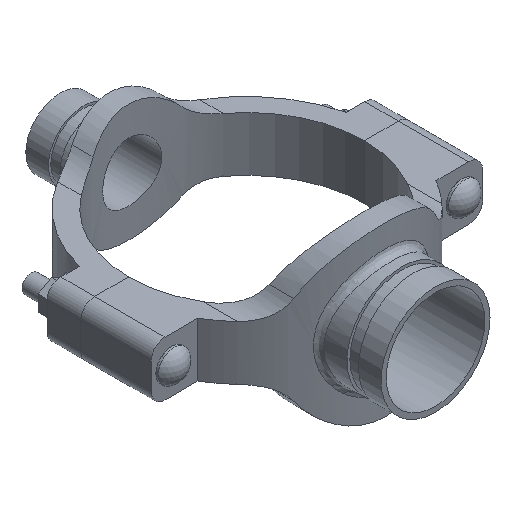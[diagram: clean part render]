
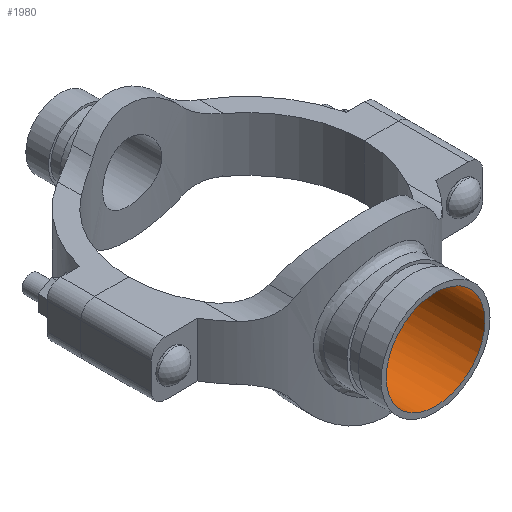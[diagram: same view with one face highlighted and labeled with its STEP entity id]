
A CAD part, isometric view. The second image highlights one B-rep face of the part: STEP entity #1980.
In plain terms, the highlighted cylindrical face has radius 34.493 mm (diameter 68.986 mm), a full revolution.
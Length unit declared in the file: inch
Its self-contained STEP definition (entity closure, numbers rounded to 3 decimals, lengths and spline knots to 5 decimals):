
#50=B_SPLINE_CURVE_WITH_KNOTS('',3,(#4000,#4001,#4002,#4003,#4004,#4005,
#4006,#4007,#4008,#4009,#4010,#4011,#4012,#4013,#4014,#4015,#4016,#4017,
#4018,#4019,#4020,#4021,#4022,#4023,#4024,#4025,#4026,#4027,#4028,#4029,
#4030,#4031,#4032,#4033,#4034,#4035,#4036,#4037,#4038,#4039,#4040,#4041,
#4042,#4043,#4044,#4045,#4046,#4047,#4048,#4049,#4050,#4051,#4052,#4053,
#4054,#4055,#4056,#4057,#4058,#4059,#4060,#4061,#4062,#4063,#4064,#4065),
 .UNSPECIFIED.,.T.,.F.,(4,2,2,2,2,2,2,2,2,2,2,2,2,2,2,2,2,2,2,2,2,2,2,2,
2,2,2,2,2,2,2,2,4),(0.,0.65894,1.31787,1.97681,
2.63574,3.29387,3.952,4.61013,5.26826,
5.92639,6.58452,7.24265,7.90078,8.55972,
9.21865,9.87759,10.53652,11.19546,11.8544,
12.51333,13.17227,13.8304,14.48853,15.14666,
15.80479,16.46292,17.12105,17.77918,18.4373,
19.09624,19.75518,20.41411,21.07305),
 .UNSPECIFIED.);
#95=CYLINDRICAL_SURFACE('',#2217,1.358);
#212=FACE_OUTER_BOUND('',#334,.T.);
#334=EDGE_LOOP('',(#1592,#1593,#1594,#1595));
#484=LINE('',#3999,#632);
#632=VECTOR('',#2682,1.358);
#734=CIRCLE('',#2218,1.358);
#899=VERTEX_POINT('',#3996);
#900=VERTEX_POINT('',#3998);
#1144=EDGE_CURVE('',#899,#899,#734,.T.);
#1145=EDGE_CURVE('',#899,#900,#484,.T.);
#1146=EDGE_CURVE('',#900,#900,#50,.T.);
#1592=ORIENTED_EDGE('',*,*,#1144,.F.);
#1593=ORIENTED_EDGE('',*,*,#1145,.T.);
#1594=ORIENTED_EDGE('',*,*,#1146,.F.);
#1595=ORIENTED_EDGE('',*,*,#1145,.F.);
#1980=ADVANCED_FACE('',(#212),#95,.F.);
#2217=AXIS2_PLACEMENT_3D('',#3995,#2678,#2679);
#2218=AXIS2_PLACEMENT_3D('',#3997,#2680,#2681);
#2678=DIRECTION('center_axis',(0.,-1.,0.));
#2679=DIRECTION('ref_axis',(-1.,0.,0.));
#2680=DIRECTION('center_axis',(0.,-1.,0.));
#2681=DIRECTION('ref_axis',(-1.,0.,0.));
#2682=DIRECTION('',(0.,-1.,0.));
#3995=CARTESIAN_POINT('Origin',(0.,5.21,0.));
#3996=CARTESIAN_POINT('',(1.358,5.21,0.));
#3997=CARTESIAN_POINT('Origin',(0.,5.21,0.));
#3998=CARTESIAN_POINT('',(1.358,2.95268,0.));
#3999=CARTESIAN_POINT('',(1.358,5.21,0.));
#4000=CARTESIAN_POINT('Ctrl Pts',(1.358,2.95268,0.));
#4001=CARTESIAN_POINT('Ctrl Pts',(1.358,2.95268,-0.08647));
#4002=CARTESIAN_POINT('Ctrl Pts',(1.34961,2.95659,-0.1755));
#4003=CARTESIAN_POINT('Ctrl Pts',(1.3147,2.97227,-0.35185));
#4004=CARTESIAN_POINT('Ctrl Pts',(1.2882,2.98403,-0.43917));
#4005=CARTESIAN_POINT('Ctrl Pts',(1.21861,3.01312,-0.60607));
#4006=CARTESIAN_POINT('Ctrl Pts',(1.17547,3.03044,-0.6858));
#4007=CARTESIAN_POINT('Ctrl Pts',(1.07616,3.06711,-0.83302));
#4008=CARTESIAN_POINT('Ctrl Pts',(1.01999,3.08643,-0.90052));
#4009=CARTESIAN_POINT('Ctrl Pts',(0.90059,3.12335,-1.01991));
#4010=CARTESIAN_POINT('Ctrl Pts',(0.83313,3.14231,-1.07608));
#4011=CARTESIAN_POINT('Ctrl Pts',(0.68589,3.1777,-1.17542));
#4012=CARTESIAN_POINT('Ctrl Pts',(0.60611,3.1941,-1.2186));
#4013=CARTESIAN_POINT('Ctrl Pts',(0.4391,3.22131,-1.28823));
#4014=CARTESIAN_POINT('Ctrl Pts',(0.35172,3.23212,-1.31474));
#4015=CARTESIAN_POINT('Ctrl Pts',(0.17536,3.24647,-1.34963));
#4016=CARTESIAN_POINT('Ctrl Pts',(0.08637,3.25,-1.358));
#4017=CARTESIAN_POINT('Ctrl Pts',(-0.08637,3.25,-1.358));
#4018=CARTESIAN_POINT('Ctrl Pts',(-0.17536,3.24647,-1.34963));
#4019=CARTESIAN_POINT('Ctrl Pts',(-0.35172,3.23212,-1.31474));
#4020=CARTESIAN_POINT('Ctrl Pts',(-0.4391,3.22131,-1.28823));
#4021=CARTESIAN_POINT('Ctrl Pts',(-0.60611,3.1941,-1.2186));
#4022=CARTESIAN_POINT('Ctrl Pts',(-0.68589,3.1777,-1.17542));
#4023=CARTESIAN_POINT('Ctrl Pts',(-0.83313,3.14231,-1.07608));
#4024=CARTESIAN_POINT('Ctrl Pts',(-0.90059,3.12335,-1.01991));
#4025=CARTESIAN_POINT('Ctrl Pts',(-1.01999,3.08643,-0.90052));
#4026=CARTESIAN_POINT('Ctrl Pts',(-1.07616,3.06711,-0.83302));
#4027=CARTESIAN_POINT('Ctrl Pts',(-1.17547,3.03044,-0.6858));
#4028=CARTESIAN_POINT('Ctrl Pts',(-1.21861,3.01312,-0.60607));
#4029=CARTESIAN_POINT('Ctrl Pts',(-1.2882,2.98403,-0.43917));
#4030=CARTESIAN_POINT('Ctrl Pts',(-1.3147,2.97227,-0.35185));
#4031=CARTESIAN_POINT('Ctrl Pts',(-1.34961,2.95659,-0.1755));
#4032=CARTESIAN_POINT('Ctrl Pts',(-1.358,2.95268,-0.08647));
#4033=CARTESIAN_POINT('Ctrl Pts',(-1.358,2.95268,0.08647));
#4034=CARTESIAN_POINT('Ctrl Pts',(-1.34961,2.95659,0.1755));
#4035=CARTESIAN_POINT('Ctrl Pts',(-1.3147,2.97227,0.35185));
#4036=CARTESIAN_POINT('Ctrl Pts',(-1.2882,2.98403,0.43917));
#4037=CARTESIAN_POINT('Ctrl Pts',(-1.21861,3.01312,0.60607));
#4038=CARTESIAN_POINT('Ctrl Pts',(-1.17547,3.03044,0.6858));
#4039=CARTESIAN_POINT('Ctrl Pts',(-1.07616,3.06711,0.83302));
#4040=CARTESIAN_POINT('Ctrl Pts',(-1.01999,3.08643,0.90052));
#4041=CARTESIAN_POINT('Ctrl Pts',(-0.90059,3.12335,1.01991));
#4042=CARTESIAN_POINT('Ctrl Pts',(-0.83313,3.14231,1.07608));
#4043=CARTESIAN_POINT('Ctrl Pts',(-0.68589,3.1777,1.17542));
#4044=CARTESIAN_POINT('Ctrl Pts',(-0.60611,3.1941,1.2186));
#4045=CARTESIAN_POINT('Ctrl Pts',(-0.4391,3.22131,1.28823));
#4046=CARTESIAN_POINT('Ctrl Pts',(-0.35172,3.23212,1.31474));
#4047=CARTESIAN_POINT('Ctrl Pts',(-0.17536,3.24647,1.34963));
#4048=CARTESIAN_POINT('Ctrl Pts',(-0.08637,3.25,1.358));
#4049=CARTESIAN_POINT('Ctrl Pts',(0.08637,3.25,1.358));
#4050=CARTESIAN_POINT('Ctrl Pts',(0.17536,3.24647,1.34963));
#4051=CARTESIAN_POINT('Ctrl Pts',(0.35172,3.23212,1.31474));
#4052=CARTESIAN_POINT('Ctrl Pts',(0.4391,3.22131,1.28823));
#4053=CARTESIAN_POINT('Ctrl Pts',(0.60611,3.1941,1.2186));
#4054=CARTESIAN_POINT('Ctrl Pts',(0.68589,3.1777,1.17542));
#4055=CARTESIAN_POINT('Ctrl Pts',(0.83313,3.14231,1.07608));
#4056=CARTESIAN_POINT('Ctrl Pts',(0.90059,3.12335,1.01991));
#4057=CARTESIAN_POINT('Ctrl Pts',(1.01999,3.08643,0.90052));
#4058=CARTESIAN_POINT('Ctrl Pts',(1.07616,3.06711,0.83302));
#4059=CARTESIAN_POINT('Ctrl Pts',(1.17547,3.03044,0.6858));
#4060=CARTESIAN_POINT('Ctrl Pts',(1.21861,3.01312,0.60607));
#4061=CARTESIAN_POINT('Ctrl Pts',(1.2882,2.98403,0.43917));
#4062=CARTESIAN_POINT('Ctrl Pts',(1.3147,2.97227,0.35185));
#4063=CARTESIAN_POINT('Ctrl Pts',(1.34961,2.95659,0.1755));
#4064=CARTESIAN_POINT('Ctrl Pts',(1.358,2.95268,0.08647));
#4065=CARTESIAN_POINT('Ctrl Pts',(1.358,2.95268,0.));
